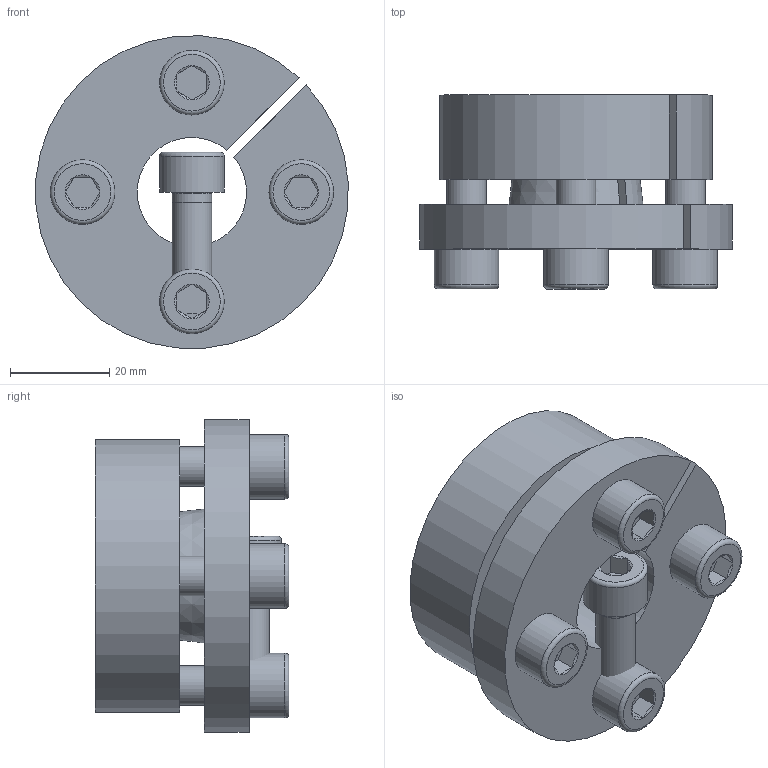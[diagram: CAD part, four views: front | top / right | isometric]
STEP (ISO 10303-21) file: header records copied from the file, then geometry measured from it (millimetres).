
FILE_DESCRIPTION( ( 'Unknown' ), '1' );
FILE_NAME( 'C:/Dokumente und Einstellungen/Sven/Desktop/15/KBS 15 - 22 x 55.stp', 'Unknown', ( 'Unknown' ), ( 'Unknown' ), 'XStep 1.0', 'Unknown', ' ' );
FILE_SCHEMA( ( 'automotive_design' ) );
Length unit declared in the file: millimetre
Products named in the file (3): Assem1; ISO EN DIN 4762 M8x25_4; KBS 15 - 22 x 55_0
Bounding box: 62.84 x 39 x 62.84 mm (x, y, z)
Volume: 118457.5 mm3; surface area: 44052.9 mm2
Topology: 7 solids, 7 shells, 165 faces, 342 edges, 211 vertices
Faces by surface type: plane 74, cylinder 42, cone 39, torus 10
Full cylindrical faces by diameter (mm): 6.647 x8, 7 x5, 8 x10, 9 x8, 13 x5
Entity records: 1434 total; most frequent: CARTESIAN_POINT 245, DIRECTION 216, ORIENTED_EDGE 162, AXIS2_PLACEMENT_3D 94, EDGE_CURVE 81, EDGE_LOOP 80, FACE_OUTER_BOUND 59, VERTEX_POINT 59
